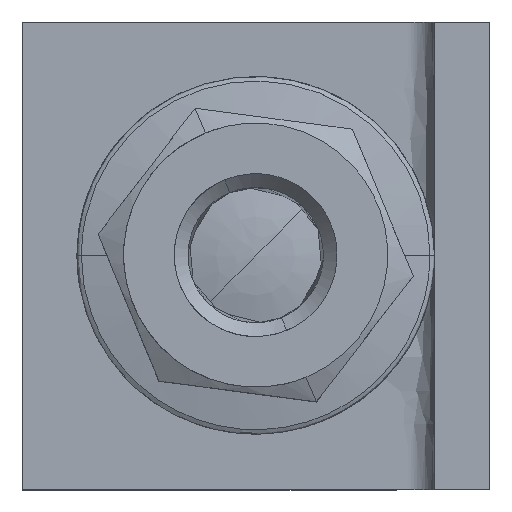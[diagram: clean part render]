
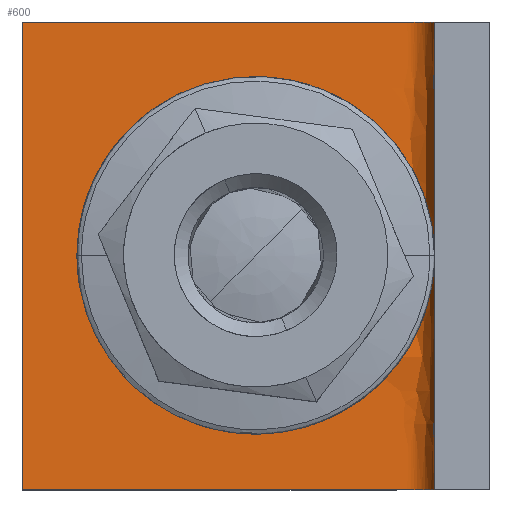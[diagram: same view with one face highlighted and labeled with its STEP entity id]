
A CAD part, top view. The second image highlights one B-rep face of the part: STEP entity #600.
In plain terms, the highlighted free-form (B-spline) face has degree [2, 1] with [7, 2] control points.
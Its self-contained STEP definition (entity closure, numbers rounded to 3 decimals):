
#40=FACE_BOUND($,#713,.T.);
#600=ADVANCED_FACE($,(#655,#40),#1382,.T.);
#655=FACE_OUTER_BOUND($,#712,.T.);
#712=EDGE_LOOP($,(#869,#870,#871,#872));
#713=EDGE_LOOP($,(#873,#874,#875,#876));
#869=ORIENTED_EDGE($,*,*,#1089,.T.);
#870=ORIENTED_EDGE($,*,*,#1087,.T.);
#871=ORIENTED_EDGE($,*,*,#1088,.F.);
#872=ORIENTED_EDGE($,*,*,#1086,.F.);
#873=ORIENTED_EDGE($,*,*,#1093,.T.);
#874=ORIENTED_EDGE($,*,*,#1090,.T.);
#875=ORIENTED_EDGE($,*,*,#1091,.T.);
#876=ORIENTED_EDGE($,*,*,#1092,.T.);
#1086=EDGE_CURVE($,#1278,#1277,#1605,.T.);
#1087=EDGE_CURVE($,#1280,#1279,#1606,.T.);
#1088=EDGE_CURVE($,#1277,#1279,#1476,.T.);
#1089=EDGE_CURVE($,#1278,#1280,#1477,.T.);
#1090=EDGE_CURVE($,#1281,#1282,#1478,.T.);
#1091=EDGE_CURVE($,#1282,#1283,#1479,.T.);
#1092=EDGE_CURVE($,#1283,#1284,#1480,.T.);
#1093=EDGE_CURVE($,#1284,#1281,#1481,.T.);
#1277=VERTEX_POINT($,#3167);
#1278=VERTEX_POINT($,#3168);
#1279=VERTEX_POINT($,#3169);
#1280=VERTEX_POINT($,#3170);
#1281=VERTEX_POINT($,#3171);
#1282=VERTEX_POINT($,#3172);
#1283=VERTEX_POINT($,#3173);
#1284=VERTEX_POINT($,#3174);
#1382=(
BOUNDED_SURFACE()
B_SPLINE_SURFACE(2,1,((#3153,#3154),(#3155,#3156),(#3157,#3158),(#3159,#3160),
(#3161,#3162),(#3163,#3164),(#3165,#3166)),.UNSPECIFIED.,.F.,.F.,.F.)
B_SPLINE_SURFACE_WITH_KNOTS((3,2,2,3),(2,2),(-20.371,-6.371,
-4.8,-2.),(0.,17.),.UNSPECIFIED.)
GEOMETRIC_REPRESENTATION_ITEM()
RATIONAL_B_SPLINE_SURFACE(((1.,1.),(1.,1.),(1.,1.),(0.707,0.707),
(1.,1.),(1.,1.),(1.,1.)))
REPRESENTATION_ITEM($)
SURFACE()
);
#1476=B_SPLINE_CURVE_WITH_KNOTS($,1,(#3133,#3134),.UNSPECIFIED.,.F.,.F.,
(2,2),(0.,17.),.UNSPECIFIED.);
#1477=B_SPLINE_CURVE_WITH_KNOTS($,1,(#3135,#3136),.UNSPECIFIED.,.F.,.F.,
(2,2),(0.,17.),.UNSPECIFIED.);
#1478=B_SPLINE_CURVE_WITH_KNOTS($,3,(#3137,#3138,#3139,#3140),.UNSPECIFIED.,
.F.,.F.,(4,4),(0.,7.4),.UNSPECIFIED.);
#1479=B_SPLINE_CURVE_WITH_KNOTS($,3,(#3141,#3142,#3143,#3144),.UNSPECIFIED.,
.F.,.F.,(4,4),(0.,7.4),.UNSPECIFIED.);
#1480=B_SPLINE_CURVE_WITH_KNOTS($,3,(#3145,#3146,#3147,#3148),.UNSPECIFIED.,
.F.,.F.,(4,4),(0.,7.4),.UNSPECIFIED.);
#1481=B_SPLINE_CURVE_WITH_KNOTS($,3,(#3149,#3150,#3151,#3152),.UNSPECIFIED.,
.F.,.F.,(4,4),(0.,7.4),.UNSPECIFIED.);
#1605=(
BOUNDED_CURVE()
B_SPLINE_CURVE(2,(#3119,#3120,#3121,#3122,#3123,#3124,#3125),.UNSPECIFIED.,
.F.,.F.)
B_SPLINE_CURVE_WITH_KNOTS((3,2,2,3),(2.,4.8,6.371,
20.371),.UNSPECIFIED.)
CURVE()
GEOMETRIC_REPRESENTATION_ITEM()
RATIONAL_B_SPLINE_CURVE((1.,1.,1.,0.707,1.,1.,1.))
REPRESENTATION_ITEM($)
);
#1606=(
BOUNDED_CURVE()
B_SPLINE_CURVE(2,(#3126,#3127,#3128,#3129,#3130,#3131,#3132),.UNSPECIFIED.,
.F.,.F.)
B_SPLINE_CURVE_WITH_KNOTS((3,2,2,3),(2.,4.8,6.371,
20.371),.UNSPECIFIED.)
CURVE()
GEOMETRIC_REPRESENTATION_ITEM()
RATIONAL_B_SPLINE_CURVE((1.,1.,1.,0.707,1.,1.,1.))
REPRESENTATION_ITEM($)
);
#3119=CARTESIAN_POINT($,(6.512,-8.5,3.8));
#3120=CARTESIAN_POINT($,(6.512,-8.5,2.4));
#3121=CARTESIAN_POINT($,(6.512,-8.5,1.));
#3122=CARTESIAN_POINT($,(6.512,-8.5,0.));
#3123=CARTESIAN_POINT($,(5.512,-8.5,0.));
#3124=CARTESIAN_POINT($,(-1.488,-8.5,0.));
#3125=CARTESIAN_POINT($,(-8.488,-8.5,0.));
#3126=CARTESIAN_POINT($,(6.512,8.5,3.8));
#3127=CARTESIAN_POINT($,(6.512,8.5,2.4));
#3128=CARTESIAN_POINT($,(6.512,8.5,1.));
#3129=CARTESIAN_POINT($,(6.512,8.5,0.));
#3130=CARTESIAN_POINT($,(5.512,8.5,0.));
#3131=CARTESIAN_POINT($,(-1.488,8.5,0.));
#3132=CARTESIAN_POINT($,(-8.488,8.5,0.));
#3133=CARTESIAN_POINT($,(-8.488,-8.5,0.));
#3134=CARTESIAN_POINT($,(-8.488,8.5,0.));
#3135=CARTESIAN_POINT($,(6.512,-8.5,3.8));
#3136=CARTESIAN_POINT($,(6.512,8.5,3.8));
#3137=CARTESIAN_POINT($,(3.7,3.7,0.));
#3138=CARTESIAN_POINT($,(3.7,1.233,0.));
#3139=CARTESIAN_POINT($,(3.7,-1.233,0.));
#3140=CARTESIAN_POINT($,(3.7,-3.7,0.));
#3141=CARTESIAN_POINT($,(3.7,-3.7,0.));
#3142=CARTESIAN_POINT($,(1.233,-3.7,0.));
#3143=CARTESIAN_POINT($,(-1.233,-3.7,0.));
#3144=CARTESIAN_POINT($,(-3.7,-3.7,0.));
#3145=CARTESIAN_POINT($,(-3.7,-3.7,0.));
#3146=CARTESIAN_POINT($,(-3.7,-1.233,0.));
#3147=CARTESIAN_POINT($,(-3.7,1.233,0.));
#3148=CARTESIAN_POINT($,(-3.7,3.7,0.));
#3149=CARTESIAN_POINT($,(-3.7,3.7,0.));
#3150=CARTESIAN_POINT($,(-1.233,3.7,0.));
#3151=CARTESIAN_POINT($,(1.233,3.7,0.));
#3152=CARTESIAN_POINT($,(3.7,3.7,0.));
#3153=CARTESIAN_POINT($,(-8.488,-8.5,0.));
#3154=CARTESIAN_POINT($,(-8.488,8.5,0.));
#3155=CARTESIAN_POINT($,(-1.488,-8.5,0.));
#3156=CARTESIAN_POINT($,(-1.488,8.5,0.));
#3157=CARTESIAN_POINT($,(5.512,-8.5,0.));
#3158=CARTESIAN_POINT($,(5.512,8.5,0.));
#3159=CARTESIAN_POINT($,(6.512,-8.5,0.));
#3160=CARTESIAN_POINT($,(6.512,8.5,0.));
#3161=CARTESIAN_POINT($,(6.512,-8.5,1.));
#3162=CARTESIAN_POINT($,(6.512,8.5,1.));
#3163=CARTESIAN_POINT($,(6.512,-8.5,2.4));
#3164=CARTESIAN_POINT($,(6.512,8.5,2.4));
#3165=CARTESIAN_POINT($,(6.512,-8.5,3.8));
#3166=CARTESIAN_POINT($,(6.512,8.5,3.8));
#3167=CARTESIAN_POINT($,(-8.488,-8.5,0.));
#3168=CARTESIAN_POINT($,(6.512,-8.5,3.8));
#3169=CARTESIAN_POINT($,(-8.488,8.5,0.));
#3170=CARTESIAN_POINT($,(6.512,8.5,3.8));
#3171=CARTESIAN_POINT($,(3.7,3.7,0.));
#3172=CARTESIAN_POINT($,(3.7,-3.7,0.));
#3173=CARTESIAN_POINT($,(-3.7,-3.7,0.));
#3174=CARTESIAN_POINT($,(-3.7,3.7,0.));
